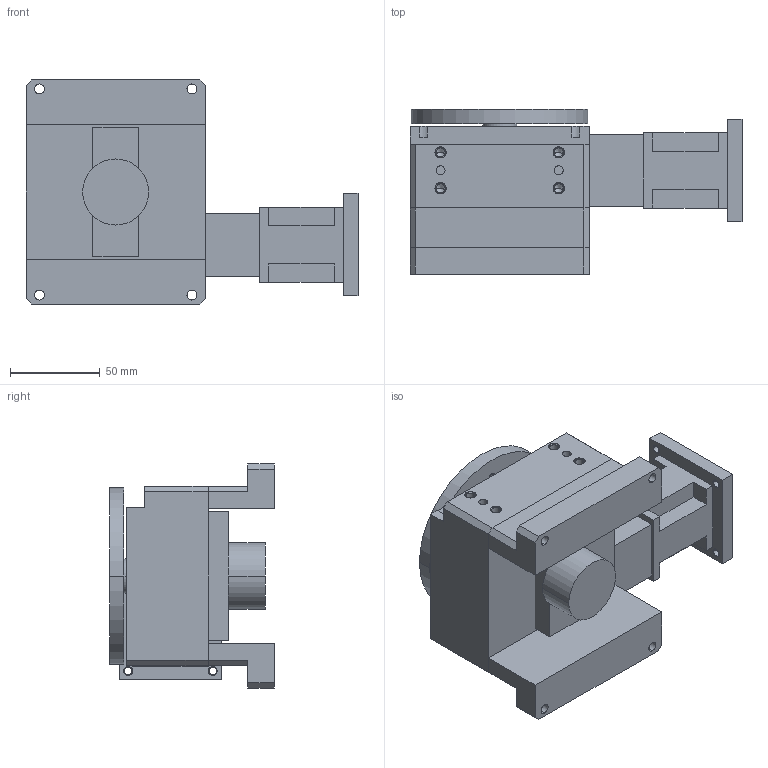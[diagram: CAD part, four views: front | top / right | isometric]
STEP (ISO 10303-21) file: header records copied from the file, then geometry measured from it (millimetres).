
FILE_DESCRIPTION((''),'2;1');
FILE_NAME('R100M6M23E1_ASM','2009-07-02T',('FK20128'),(''),'PRO/ENGINEER BY PARAMETRIC TECHNOLOGY CORPORATION, 2006200','PRO/ENGINEER BY PARAMETRIC TECHNOLOGY CORPORATION, 2006200','');
FILE_SCHEMA(('CONFIG_CONTROL_DESIGN'));
Length unit declared in the file: millimetre
Products named in the file (7): R100M; R100M-M23; R100M-ENCODER-BRKT; RXXXM-ENCODER; R100M-ENCODER-STANDOFF; R100M-E1_ASM; R100M6M23E1_ASM
Assembly tree (7 placements, depth 3):
  R100M6M23E1_ASM
    R100M
    R100M-M23
    R100M-E1_ASM
      R100M-ENCODER-BRKT
      RXXXM-ENCODER
      R100M-ENCODER-STANDOFF  x2
Bounding box: 185.15 x 92.01 x 125 mm (x, y, z)
Volume: 762662.6 mm3; surface area: 132989 mm2
Topology: 6 solids, 28 shells, 299 faces, 744 edges, 498 vertices
Faces by surface type: cylinder 152, plane 125, cone 22
Entity records: 8411 total; most frequent: DIRECTION 1584, CARTESIAN_POINT 1407, ORIENTED_EDGE 1244, EDGE_CURVE 662, AXIS2_PLACEMENT_3D 627, VERTEX_POINT 450, EDGE_LOOP 360, CIRCLE 332
